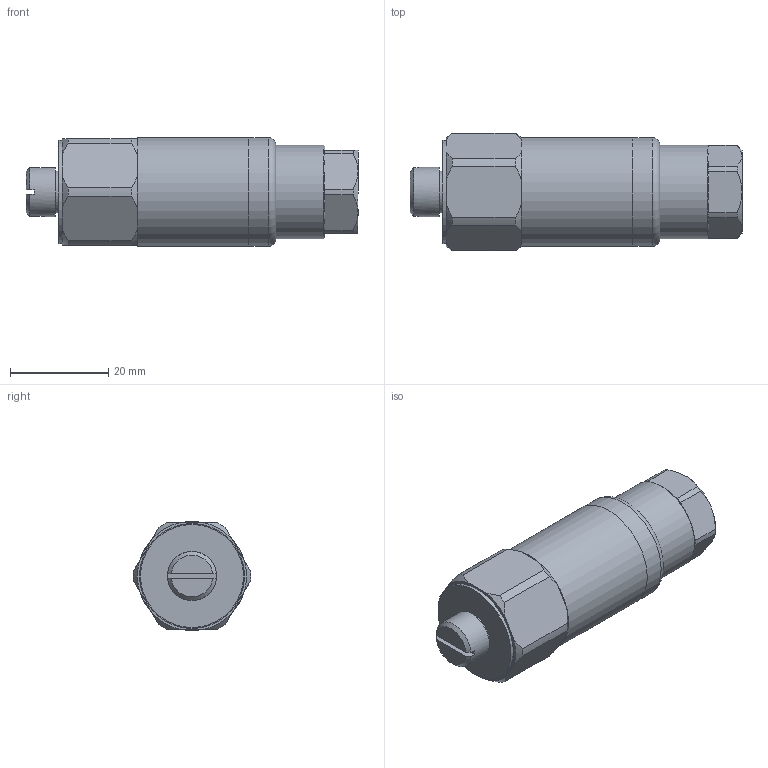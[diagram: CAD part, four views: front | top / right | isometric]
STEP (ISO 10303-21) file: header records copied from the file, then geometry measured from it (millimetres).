
FILE_DESCRIPTION(/* description */ (''),/* implementation_level */ '2;1');
FILE_NAME(/* name */ 'Z:\Engineering\Drawings\3D Library\Assemblies\Website\Premium Top\HS-150 Top Silicon\HS-150XXX0710.stp',/* time_stamp */ '2023-03-12T11:30:57+00:00',/* author */ ('Ricardo.Peneda'),/* organization */ (''),/* preprocessor_version */ 'ST-DEVELOPER v18.1',/* originating_system */ 'Autodesk Inventor 2021',/* authorisation */ '');
FILE_SCHEMA (('AUTOMOTIVE_DESIGN { 1 0 10303 214 3 1 1 }'));
Length unit declared in the file: inch
Products named in the file (1): HS-150XXX0710_Shrinkwrap_1
Bounding box: 67.65 x 23.99 x 22.2 mm (x, y, z)
Volume: 14195 mm3; surface area: 9074.5 mm2
Topology: 4 solids, 4 shells, 105 faces, 271 edges, 190 vertices
Faces by surface type: plane 50, cylinder 33, cone 21, torus 1
Full cylindrical faces by diameter (mm): 5 x1, 5.359 x1, 6.35 x1, 7 x1, 7.5 x1, 8.5 x1, 9 x1, 10 x1, 12 x2, 14 x1, 15 x2, 15.055 x1, 18 x1, 19 x1, 19.95 x1, 20 x1, 21 x1, 22.2 x2
Entity records: 3415 total; most frequent: CARTESIAN_POINT 654, DIRECTION 580, ORIENTED_EDGE 540, EDGE_CURVE 270, AXIS2_PLACEMENT_3D 248, VERTEX_POINT 190, CIRCLE 142, EDGE_LOOP 126
